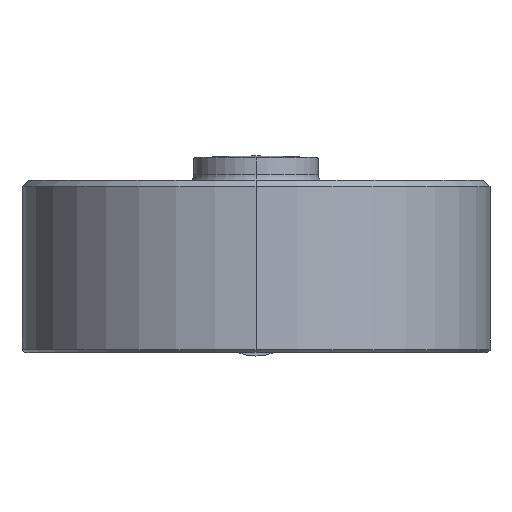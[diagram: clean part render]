
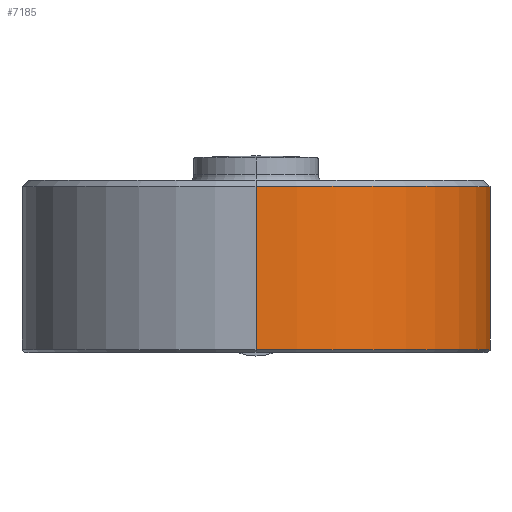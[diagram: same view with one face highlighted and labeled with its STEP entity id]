
A CAD part, top view. The second image highlights one B-rep face of the part: STEP entity #7185.
In plain terms, the highlighted cylindrical face has radius 19.05 mm (diameter 38.1 mm), a partial arc.
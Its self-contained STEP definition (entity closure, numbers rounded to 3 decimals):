
#3190 = CARTESIAN_POINT ( 'NONE',  ( 2.384, 3.915, -18.9 ) ) ;
#3191 = CARTESIAN_POINT ( 'NONE',  ( 2.4, 3.759, -18.898 ) ) ;
#3195 = CARTESIAN_POINT ( 'NONE',  ( 2.4, 3.6, -18.898 ) ) ;
#3196 = CARTESIAN_POINT ( 'NONE',  ( 2.323, 4.221, -18.908 ) ) ;
#3197 = CARTESIAN_POINT ( 'NONE',  ( 2.277, 4.374, -18.913 ) ) ;
#3198 = CARTESIAN_POINT ( 'NONE',  ( 2.157, 4.664, -18.928 ) ) ;
#3199 = CARTESIAN_POINT ( 'NONE',  ( 2.083, 4.802, -18.936 ) ) ;
#3200 = CARTESIAN_POINT ( 'NONE',  ( 1.909, 5.063, -18.954 ) ) ;
#3201 = CARTESIAN_POINT ( 'NONE',  ( 1.808, 5.186, -18.964 ) ) ;
#3202 = CARTESIAN_POINT ( 'NONE',  ( 1.477, 5.518, -18.994 ) ) ;
#3203 = CARTESIAN_POINT ( 'NONE',  ( 1.209, 5.696, -19.014 ) ) ;
#3204 = CARTESIAN_POINT ( 'NONE',  ( 0.632, 5.936, -19.042 ) ) ;
#3205 = CARTESIAN_POINT ( 'NONE',  ( 0.317, 6., -19.05 ) ) ;
#3206 = CARTESIAN_POINT ( 'NONE',  ( 0., 6., -19.05 ) ) ;
#5641 = ORIENTED_EDGE ( 'NONE', *, *, #6934, .F. ) ;
#5648 = ORIENTED_EDGE ( 'NONE', *, *, #7159, .T. ) ;
#6417 = CARTESIAN_POINT ( 'NONE',  ( 0.313, 1.2, -19.05 ) ) ;
#6421 = CARTESIAN_POINT ( 'NONE',  ( 0., 1.2, -19.05 ) ) ;
#6423 = CARTESIAN_POINT ( 'NONE',  ( 0.63, 1.263, -19.042 ) ) ;
#6424 = CARTESIAN_POINT ( 'NONE',  ( 1.063, 1.443, -19.021 ) ) ;
#6425 = CARTESIAN_POINT ( 'NONE',  ( 1.203, 1.517, -19.012 ) ) ;
#6426 = CARTESIAN_POINT ( 'NONE',  ( 1.465, 1.693, -18.994 ) ) ;
#6427 = CARTESIAN_POINT ( 'NONE',  ( 1.586, 1.792, -18.984 ) ) ;
#6428 = CARTESIAN_POINT ( 'NONE',  ( 1.807, 2.013, -18.964 ) ) ;
#6429 = CARTESIAN_POINT ( 'NONE',  ( 1.909, 2.136, -18.954 ) ) ;
#6430 = CARTESIAN_POINT ( 'NONE',  ( 2.083, 2.397, -18.936 ) ) ;
#6431 = CARTESIAN_POINT ( 'NONE',  ( 2.156, 2.535, -18.928 ) ) ;
#6432 = CARTESIAN_POINT ( 'NONE',  ( 2.277, 2.826, -18.914 ) ) ;
#6433 = CARTESIAN_POINT ( 'NONE',  ( 2.323, 2.978, -18.908 ) ) ;
#6434 = CARTESIAN_POINT ( 'NONE',  ( 2.384, 3.285, -18.9 ) ) ;
#6435 = CARTESIAN_POINT ( 'NONE',  ( 2.4, 3.441, -18.898 ) ) ;
#6436 = CARTESIAN_POINT ( 'NONE',  ( 2.4, 3.6, -18.898 ) ) ;
#6670 = LINE ( 'NONE', #6671, #10364 ) ;
#6671 = CARTESIAN_POINT ( 'NONE',  ( 0., 0., 19.05 ) ) ;
#6672 = DIRECTION ( 'NONE',  ( 0., -1., 0. ) ) ;
#6679 = CARTESIAN_POINT ( 'NONE',  ( 0., 0.2, 0. ) ) ;
#6680 = DIRECTION ( 'NONE',  ( 0., 1., 0. ) ) ;
#6681 = DIRECTION ( 'NONE',  ( 0., 0., 1. ) ) ;
#6755 = LINE ( 'NONE', #6756, #10396 ) ;
#6756 = CARTESIAN_POINT ( 'NONE',  ( 0., 0., -19.05 ) ) ;
#6757 = DIRECTION ( 'NONE',  ( 0., -1., 0. ) ) ;
#6934 = EDGE_CURVE ( 'NONE', #11304, #12113, #14454, .T. ) ;
#7021 = EDGE_CURVE ( 'NONE', #11958, #17599, #15540, .T. ) ;
#7036 = EDGE_CURVE ( 'NONE', #11304, #11958, #15542, .T. ) ;
#7092 = EDGE_CURVE ( 'NONE', #12114, #11397, #6670, .T. ) ;
#7094 = EDGE_CURVE ( 'NONE', #11397, #12113, #10366, .T. ) ;
#7116 = EDGE_CURVE ( 'NONE', #12142, #17599, #6755, .T. ) ;
#7159 = EDGE_CURVE ( 'NONE', #12142, #12114, #10469, .T. ) ;
#7185 = ADVANCED_FACE ( 'NONE', ( #9940 ), #9942, .T. ) ;
#7296 = EDGE_LOOP ( 'NONE', ( #5648, #11461, #11796, #5641, #11742, #11757, #11646 ) ) ;
#9896 = CARTESIAN_POINT ( 'NONE',  ( 0., 13.5, 0. ) ) ;
#9897 = DIRECTION ( 'NONE',  ( 0., -1., 0. ) ) ;
#9898 = DIRECTION ( 'NONE',  ( 0., 0., -1. ) ) ;
#9936 = DIRECTION ( 'NONE',  ( 0., -1., 0. ) ) ;
#9940 = FACE_OUTER_BOUND ( 'NONE', #7296, .T. ) ;
#9941 = CARTESIAN_POINT ( 'NONE',  ( 0., 0., 0. ) ) ;
#9942 = CYLINDRICAL_SURFACE ( 'NONE', #10163, 19.05 ) ;
#9946 = DIRECTION ( 'NONE',  ( 0., 0., -1. ) ) ;
#10025 = CARTESIAN_POINT ( 'NONE',  ( 0., 1.2, -19.05 ) ) ;
#10028 = CARTESIAN_POINT ( 'NONE',  ( 0., 0.2, 19.05 ) ) ;
#10040 = CARTESIAN_POINT ( 'NONE',  ( 0., 0.2, -19.05 ) ) ;
#10042 = CARTESIAN_POINT ( 'NONE',  ( 2.4, 3.6, -18.898 ) ) ;
#10046 = CARTESIAN_POINT ( 'NONE',  ( 0., 13.5, 19.05 ) ) ;
#10073 = CARTESIAN_POINT ( 'NONE',  ( 0., 13.5, -19.05 ) ) ;
#10096 = CARTESIAN_POINT ( 'NONE',  ( 0., 6., -19.05 ) ) ;
#10163 = AXIS2_PLACEMENT_3D ( 'NONE', #9941, #9936, #9946 ) ;
#10302 = VECTOR ( 'NONE', #14459, 1000. ) ;
#10364 = VECTOR ( 'NONE', #6672, 1000. ) ;
#10366 = CIRCLE ( 'NONE', #10369, 19.05 ) ;
#10369 = AXIS2_PLACEMENT_3D ( 'NONE', #6679, #6680, #6681 ) ;
#10396 = VECTOR ( 'NONE', #6757, 1000. ) ;
#10469 = CIRCLE ( 'NONE', #10470, 19.05 ) ;
#10470 = AXIS2_PLACEMENT_3D ( 'NONE', #9896, #9897, #9898 ) ;
#11304 = VERTEX_POINT ( 'NONE', #10025 ) ;
#11397 = VERTEX_POINT ( 'NONE', #10028 ) ;
#11461 = ORIENTED_EDGE ( 'NONE', *, *, #7092, .T. ) ;
#11646 = ORIENTED_EDGE ( 'NONE', *, *, #7116, .F. ) ;
#11742 = ORIENTED_EDGE ( 'NONE', *, *, #7036, .T. ) ;
#11757 = ORIENTED_EDGE ( 'NONE', *, *, #7021, .T. ) ;
#11796 = ORIENTED_EDGE ( 'NONE', *, *, #7094, .T. ) ;
#11958 = VERTEX_POINT ( 'NONE', #10042 ) ;
#12113 = VERTEX_POINT ( 'NONE', #10040 ) ;
#12114 = VERTEX_POINT ( 'NONE', #10046 ) ;
#12142 = VERTEX_POINT ( 'NONE', #10073 ) ;
#14445 = CARTESIAN_POINT ( 'NONE',  ( 0., 0., -19.05 ) ) ;
#14454 = LINE ( 'NONE', #14445, #10302 ) ;
#14459 = DIRECTION ( 'NONE',  ( 0., -1., 0. ) ) ;
#15540 = B_SPLINE_CURVE_WITH_KNOTS ( 'NONE', 3,
 ( #3195, #3191, #3190, #3196, #3197, #3198, #3199, #3200, #3201, #3202, #3203, #3204, #3205, #3206 ),
 .UNSPECIFIED., .F., .F.,
 ( 4, 2, 2, 2, 2, 2, 4 ),
 ( 0.011, 0.012, 0.012, 0.013, 0.013, 0.014, 0.015 ),
 .UNSPECIFIED. ) ;
#15542 = B_SPLINE_CURVE_WITH_KNOTS ( 'NONE', 3,
 ( #6421, #6417, #6423, #6424, #6425, #6426, #6427, #6428, #6429, #6430, #6431, #6432, #6433, #6434, #6435, #6436 ),
 .UNSPECIFIED., .F., .F.,
 ( 4, 2, 2, 2, 2, 2, 2, 4 ),
 ( 0.008, 0.008, 0.009, 0.009, 0.01, 0.01, 0.011, 0.011 ),
 .UNSPECIFIED. ) ;
#17599 = VERTEX_POINT ( 'NONE', #10096 ) ;
